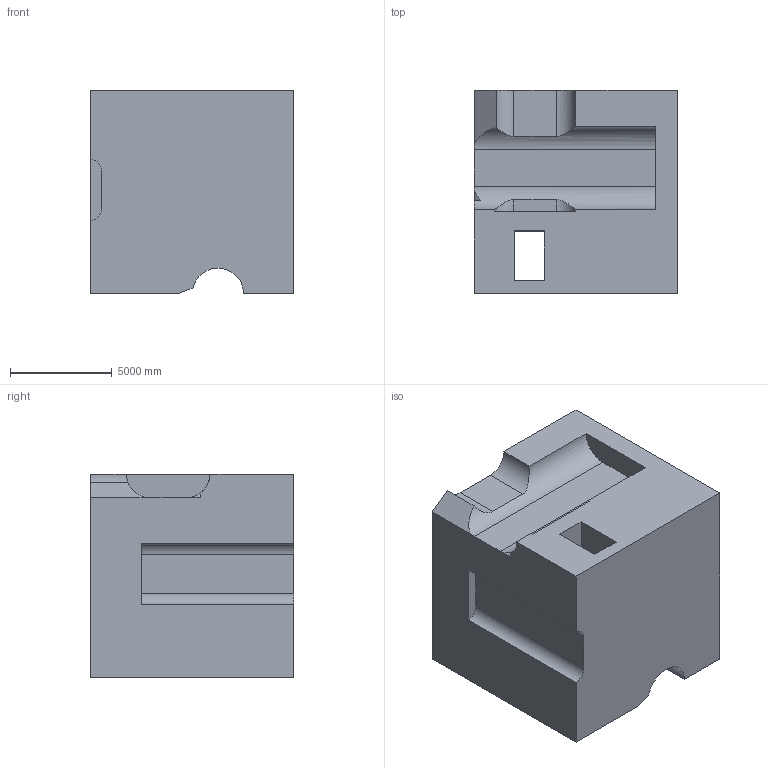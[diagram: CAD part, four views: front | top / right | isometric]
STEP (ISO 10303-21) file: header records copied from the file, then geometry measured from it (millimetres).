
FILE_DESCRIPTION (( 'STEP AP203' ), '1' );
FILE_NAME ('649.STEP', '2022-08-04T14:36:06', ( 'user' ), ( '' ), 'SwSTEP 2.0', 'SolidWorks 2021', '' );
FILE_SCHEMA (( 'CONFIG_CONTROL_DESIGN' ));
Length unit declared in the file: centimetre
Products named in the file (1): 649
Bounding box: 10000 x 10000 x 10000 mm (x, y, z)
Volume: 880885453737.5 mm3; surface area: 688633098.1 mm2
Topology: 1 solids, 1 shells, 32 faces, 90 edges, 60 vertices
Faces by surface type: plane 22, cylinder 10
Entity records: 1394 total; most frequent: CARTESIAN_POINT 479, ORIENTED_EDGE 180, DIRECTION 167, EDGE_CURVE 90, VECTOR 67, LINE 67, VERTEX_POINT 60, AXIS2_PLACEMENT_3D 50
